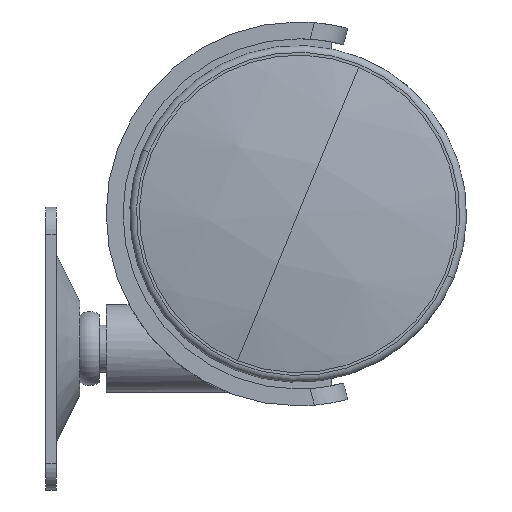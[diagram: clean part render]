
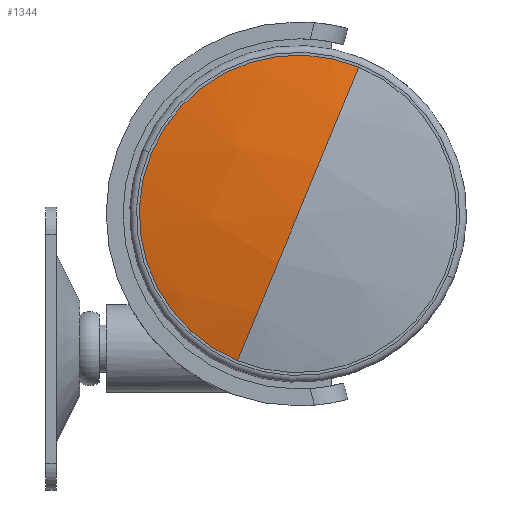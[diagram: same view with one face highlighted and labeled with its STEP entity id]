
A CAD part, left-side view. The second image highlights one B-rep face of the part: STEP entity #1344.
In plain terms, the highlighted spherical face has radius 112.5 mm.
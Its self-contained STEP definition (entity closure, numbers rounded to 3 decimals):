
#150 = CARTESIAN_POINT ( 'NONE',  ( 22.5, 0., 0. ) ) ;
#155 = SPHERICAL_SURFACE ( 'NONE', #1570, 112.5 ) ;
#186 = VERTEX_POINT ( 'NONE', #150 ) ;
#211 = CARTESIAN_POINT ( 'NONE',  ( 20., 23.585, 0. ) ) ;
#248 = DIRECTION ( 'NONE',  ( 0., 0., 1. ) ) ;
#256 = DIRECTION ( 'NONE',  ( 0., 1., 0. ) ) ;
#288 = EDGE_CURVE ( 'NONE', #691, #1076, #1605, .T. ) ;
#362 = EDGE_CURVE ( 'NONE', #186, #691, #609, .T. ) ;
#426 = CARTESIAN_POINT ( 'NONE',  ( -90., 0., 0. ) ) ;
#445 = DIRECTION ( 'NONE',  ( -1., 0., 0. ) ) ;
#502 = CARTESIAN_POINT ( 'NONE',  ( -90., 0., 0. ) ) ;
#562 = ORIENTED_EDGE ( 'NONE', *, *, #288, .F. ) ;
#609 = CIRCLE ( 'NONE', #1289, 112.5 ) ;
#644 = AXIS2_PLACEMENT_3D ( 'NONE', #1066, #248, #739 ) ;
#671 = FACE_OUTER_BOUND ( 'NONE', #1449, .T. ) ;
#691 = VERTEX_POINT ( 'NONE', #1880 ) ;
#739 = DIRECTION ( 'NONE',  ( 1., 0., 0. ) ) ;
#771 = ORIENTED_EDGE ( 'NONE', *, *, #1527, .T. ) ;
#837 = ORIENTED_EDGE ( 'NONE', *, *, #362, .F. ) ;
#958 = CIRCLE ( 'NONE', #644, 112.5 ) ;
#1032 = AXIS2_PLACEMENT_3D ( 'NONE', #1070, #445, #1108 ) ;
#1066 = CARTESIAN_POINT ( 'NONE',  ( -90., 0., 0. ) ) ;
#1070 = CARTESIAN_POINT ( 'NONE',  ( 20., 0., 0. ) ) ;
#1076 = VERTEX_POINT ( 'NONE', #211 ) ;
#1108 = DIRECTION ( 'NONE',  ( 0., 0., 1. ) ) ;
#1237 = DIRECTION ( 'NONE',  ( 0., 0., -1. ) ) ;
#1289 = AXIS2_PLACEMENT_3D ( 'NONE', #426, #1237, #256 ) ;
#1344 = ADVANCED_FACE ( 'NONE', ( #671 ), #155, .T. ) ;
#1449 = EDGE_LOOP ( 'NONE', ( #837, #771, #562 ) ) ;
#1527 = EDGE_CURVE ( 'NONE', #186, #1076, #958, .T. ) ;
#1570 = AXIS2_PLACEMENT_3D ( 'NONE', #502, #1840, #2168 ) ;
#1605 = CIRCLE ( 'NONE', #1032, 23.585 ) ;
#1840 = DIRECTION ( 'NONE',  ( 0., 0., -1. ) ) ;
#1880 = CARTESIAN_POINT ( 'NONE',  ( 20., -23.585, 0. ) ) ;
#2168 = DIRECTION ( 'NONE',  ( 0., 1., 0. ) ) ;
